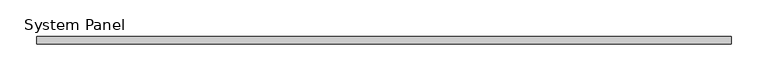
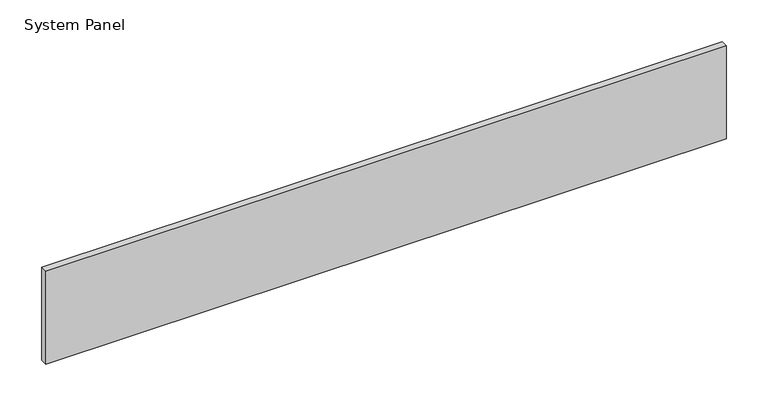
"""IFC4 building model written with IfcOpenShell, lengths in millimetres: plate geometry, System Panel : VACÍO."""

from ifc_helpers import new_model, si_unit, origin, origin_with_axes, place, context, project, spatial, polyline, outline, extrude, source, transform, mapped, element, save


def system_panel_30204105(model_context):
    return source(origin(), model_context, "Body", "SweptSolid", [
        extrude(outline(polyline([(470.4861372, -5.0), (-470.4861372, -5.0), (-470.4861372, 5.0), (470.4861372, 5.0), (470.4861372, -5.0)])), origin_with_axes(), (0.0, 0.0, 1.0), 136.0),
    ])


if __name__ == "__main__":
    model = new_model("IFC4")
    model_context = context("Model", 3, world=origin())
    ifc_project = project(units=[si_unit("LENGTHUNIT", "METRE", prefix="MILLI")], contexts=[model_context])
    site = spatial("IfcSite", under=ifc_project)
    building = spatial("IfcBuilding", under=site)
    placement = place(None, origin())
    system_panel_shape = system_panel_30204105(model_context)
    element("IfcPlate", 1, ObjectType="System Panel : VACÍO", at=placement, inside=building, context=model_context, shape_type="MappedRepresentation", body=[
        mapped(system_panel_shape, transform((0.0, 0.0, 0.0), x_axis=(1.0, 0.0, 0.0), y_axis=(0.0, 1.0, 0.0), z_axis=(0.0, 0.0, 1.0))),
    ])
    save(model, "model.ifc")
